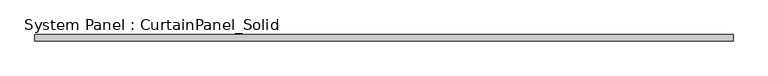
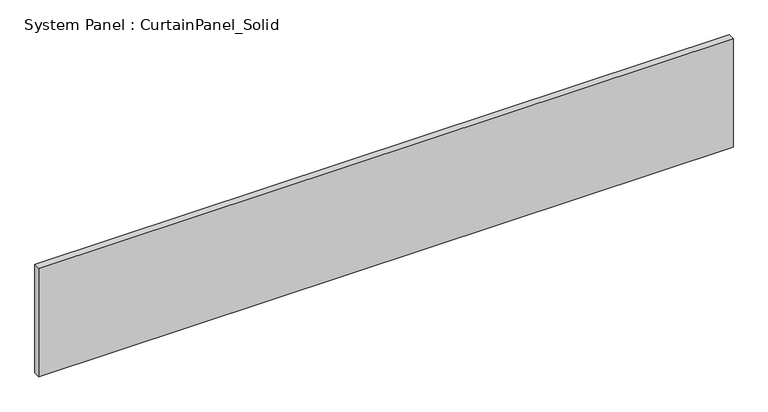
"""IFC4 building model written with IfcOpenShell, lengths in millimetres: plate geometry, System Panel : CurtainPanel_Solid."""

from ifc_helpers import new_model, si_unit, origin, origin_with_axes, place, context, project, spatial, polyline, outline, extrude, source, transform, mapped, element, save


def system_panel_curtainpanel_solid_473eca6b(model_context):
    return source(origin(), model_context, "Body", "SweptSolid", [
        extrude(outline(polyline([(1325.9999999, -12.5), (-1325.9999999, -12.5), (-1325.9999999, 12.5), (1325.9999999, 12.5), (1325.9999999, -12.5)])), origin_with_axes(), (0.0, 0.0, 1.0), 438.3),
    ])


if __name__ == "__main__":
    model = new_model("IFC4")
    model_context = context("Model", 3, world=origin())
    ifc_project = project(units=[si_unit("LENGTHUNIT", "METRE", prefix="MILLI")], contexts=[model_context])
    site = spatial("IfcSite", under=ifc_project)
    building = spatial("IfcBuilding", under=site)
    placement = place(None, origin())
    system_panel_curtainpanel_solid_shape = system_panel_curtainpanel_solid_473eca6b(model_context)
    element("IfcPlate", 1, ObjectType="System Panel : CurtainPanel_Solid", at=placement, inside=building, context=model_context, shape_type="MappedRepresentation", body=[
        mapped(system_panel_curtainpanel_solid_shape, transform((0.0, 0.0, 0.0), x_axis=(1.0, 0.0, 0.0), y_axis=(0.0, 1.0, 0.0), z_axis=(0.0, 0.0, 1.0))),
    ])
    save(model, "model.ifc")
